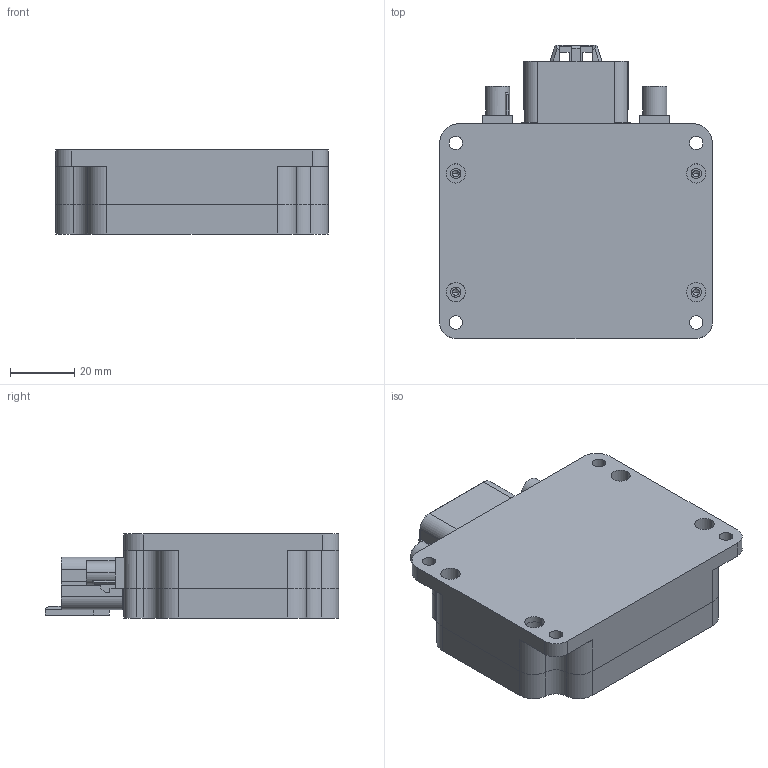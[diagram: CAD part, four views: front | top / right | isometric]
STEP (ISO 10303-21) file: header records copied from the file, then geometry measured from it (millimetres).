
FILE_DESCRIPTION (( 'STEP AP214' ), '1' );
FILE_NAME ('HI32RXX_MX23A_3D.STEP', '2023-10-10T02:15:59', ( '' ), ( '' ), 'SwSTEP 2.0', 'SolidWorks 2016', '' );
FILE_SCHEMA (( 'AUTOMOTIVE_DESIGN' ));
Length unit declared in the file: millimetre
Products named in the file (1): HI32RXX_MX23A_3D
Bounding box: 85 x 91.5 x 26.2 mm (x, y, z)
Volume: 39791.1 mm3; surface area: 43524 mm2
Topology: 5 solids, 5 shells, 614 faces, 1598 edges, 1021 vertices
Faces by surface type: plane 348, cylinder 240, cone 26
Entity records: 25540 total; most frequent: DIRECTION 3302, CARTESIAN_POINT 3264, ORIENTED_EDGE 3164, EDGE_CURVE 1582, AXIS2_PLACEMENT_3D 1111, VECTOR 1080, LINE 1080, VERTEX_POINT 1021
